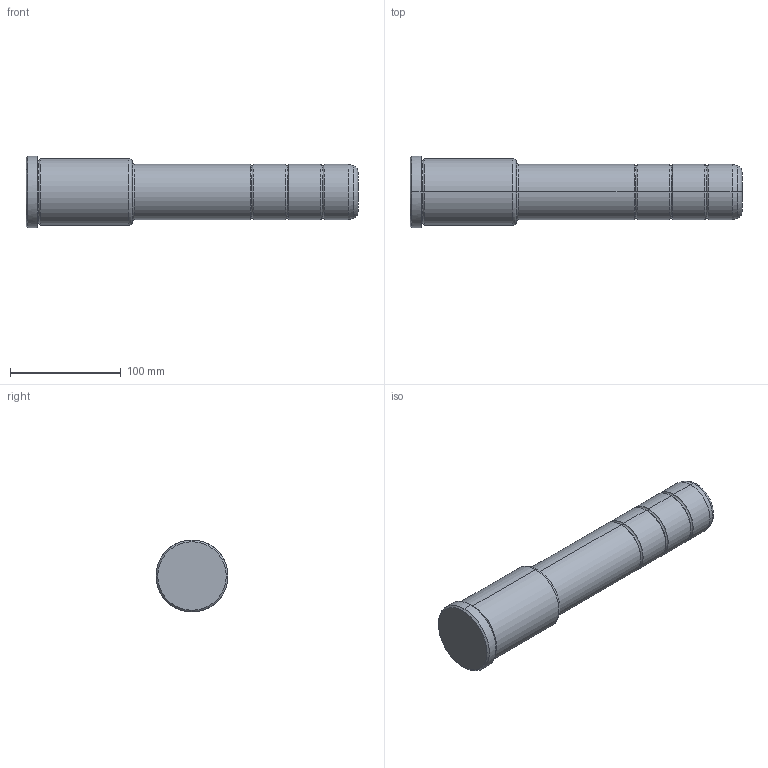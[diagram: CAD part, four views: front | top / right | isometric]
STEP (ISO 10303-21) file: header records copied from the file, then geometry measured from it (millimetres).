
FILE_DESCRIPTION(('CATIA V5 STEP Exchange'),'2;1');
FILE_NAME('C:\Users\Utente\Desktop\IO LAVORO\3D X SITO CF\X SITO\PLASTICA\351\351-50X96X300.stp','2021-11-08T18:53:41+00:00',('none'),('none'),'CATIA Version 5 Release 20 GA (IN-10)','CATIA V5 STEP AP203','none');
FILE_SCHEMA(('CONFIG_CONTROL_DESIGN'));
Length unit declared in the file: millimetre
Products named in the file (1): 351-50X96X300
Bounding box: 300 x 65 x 65 mm (x, y, z)
Volume: 671967.9 mm3; surface area: 56804.4 mm2
Topology: 1 solids, 1 shells, 41 faces, 114 edges, 76 vertices
Faces by surface type: torus 22, cylinder 12, cone 4, plane 3
Entity records: 1378 total; most frequent: CARTESIAN_POINT 288, ORIENTED_EDGE 228, DIRECTION 192, AXIS2_PLACEMENT_3D 136, EDGE_CURVE 114, CIRCLE 94, VERTEX_POINT 76, EDGE_LOOP 42
